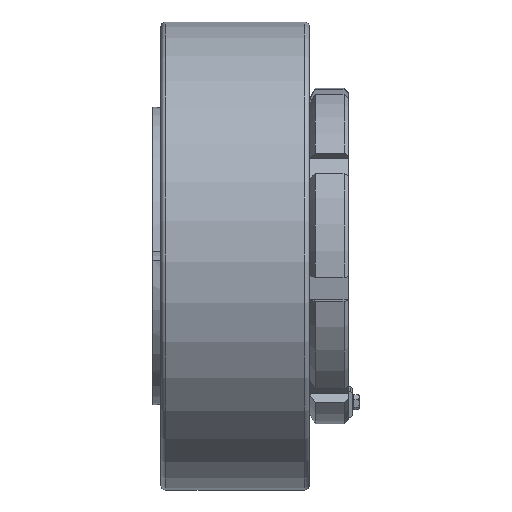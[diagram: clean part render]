
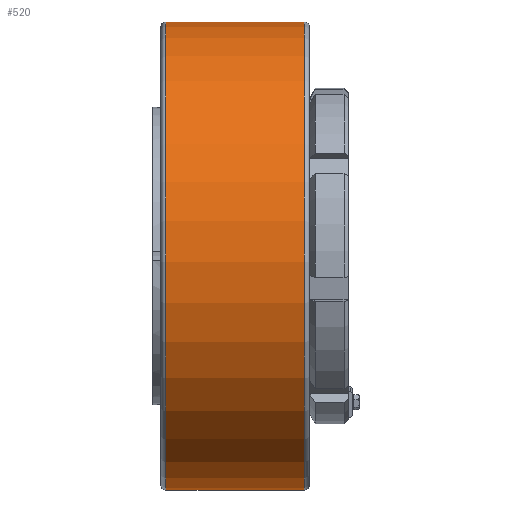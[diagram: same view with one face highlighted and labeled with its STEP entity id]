
A CAD part, front view. The second image highlights one B-rep face of the part: STEP entity #520.
In plain terms, the highlighted cylindrical face has radius 230 mm (diameter 460 mm), a full revolution.
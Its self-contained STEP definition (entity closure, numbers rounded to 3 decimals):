
#520 = ADVANCED_FACE( '', ( #1169, #1170 ), #1171, .T. );
#1169 = FACE_OUTER_BOUND( '', #1942, .T. );
#1170 = FACE_OUTER_BOUND( '', #1943, .T. );
#1171 = CYLINDRICAL_SURFACE( '', #1944, 230. );
#1942 = EDGE_LOOP( '', ( #4076 ) );
#1943 = EDGE_LOOP( '', ( #4077 ) );
#1944 = AXIS2_PLACEMENT_3D( '', #4078, #4079, #4080 );
#4076 = ORIENTED_EDGE( '', *, *, #5532, .T. );
#4077 = ORIENTED_EDGE( '', *, *, #5546, .F. );
#4078 = CARTESIAN_POINT( '', ( 0., 0., 0. ) );
#4079 = DIRECTION( '', ( -1., 0., 0. ) );
#4080 = DIRECTION( '', ( 0., 0., -1. ) );
#5532 = EDGE_CURVE( '', #6788, #6788, #6789, .T. );
#5546 = EDGE_CURVE( '', #6816, #6816, #6817, .T. );
#6788 = VERTEX_POINT( '', #8837 );
#6789 = CIRCLE( '', #8838, 230. );
#6816 = VERTEX_POINT( '', #8865 );
#6817 = CIRCLE( '', #8866, 230. );
#8837 = CARTESIAN_POINT( '', ( -187., 0., -230. ) );
#8838 = AXIS2_PLACEMENT_3D( '', #10392, #10393, #10394 );
#8865 = CARTESIAN_POINT( '', ( -51., 0., -230. ) );
#8866 = AXIS2_PLACEMENT_3D( '', #10434, #10435, #10436 );
#10392 = CARTESIAN_POINT( '', ( -187., 0., 0. ) );
#10393 = DIRECTION( '', ( 1., 0., 0. ) );
#10394 = DIRECTION( '', ( 0., 0., -1. ) );
#10434 = CARTESIAN_POINT( '', ( -51., 0., 0. ) );
#10435 = DIRECTION( '', ( 1., 0., 0. ) );
#10436 = DIRECTION( '', ( 0., 0., -1. ) );
